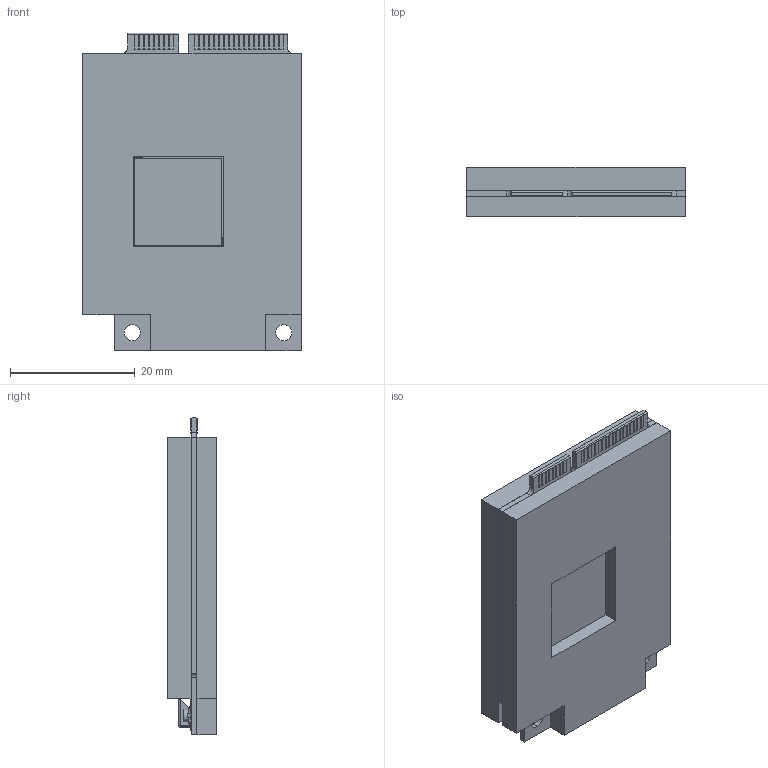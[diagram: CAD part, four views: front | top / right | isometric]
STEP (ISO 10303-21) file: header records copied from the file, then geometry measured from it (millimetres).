
FILE_DESCRIPTION (( 'STEP AP214' ), '1' );
FILE_NAME ('CCimx28-module-keepout.STEP', '2013-03-04T22:39:26', ( 'user1' ), ( 'Hewlett-Packard Company' ), 'SwSTEP 2.0', 'SolidWorks 2013', '' );
FILE_SCHEMA (( 'AUTOMOTIVE_DESIGN' ));
Length unit declared in the file: inch
Products named in the file (8): imx28-bottom-keepout_A; MB02810_A; Component-.55x.55x.045_A; 60006279-01; u.fl; CCimx28_module; CCimx28-module-keepout; imx28-top-keepout_A
Assembly tree (8 placements, depth 2):
  CCimx28-module-keepout
    CCimx28_module
    u.fl  x2
    60006279-01
    Component-.55x.55x.045_A
    MB02810_A
    imx28-bottom-keepout_A
    imx28-top-keepout_A
Bounding box: 35 x 7.93 x 50.95 mm (x, y, z)
Volume: 9950.1 mm3; surface area: 11596.8 mm2
Topology: 8 solids, 8 shells, 1067 faces, 2734 edges, 1793 vertices
Faces by surface type: plane 977, cylinder 75, torus 12, sphere 3
Entity records: 38609 total; most frequent: CARTESIAN_POINT 5285, ORIENTED_EDGE 5124, DIRECTION 4717, EDGE_CURVE 2562, VECTOR 2423, LINE 2423, VERTEX_POINT 1683, AXIS2_PLACEMENT_3D 1147
